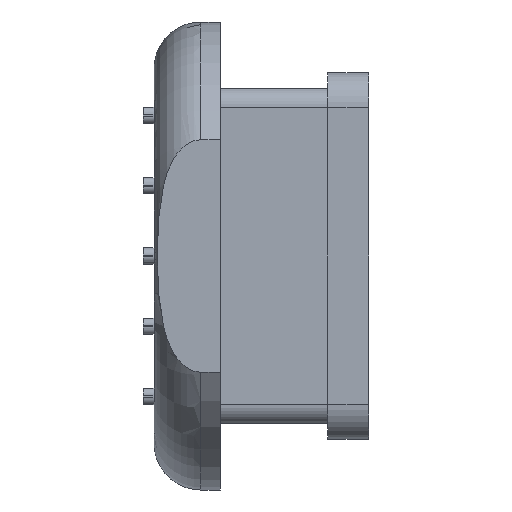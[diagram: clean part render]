
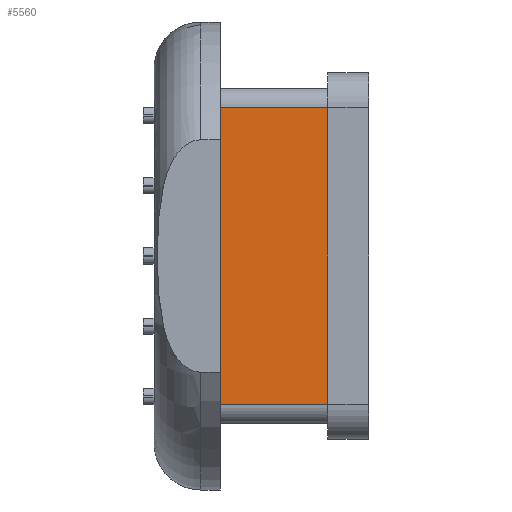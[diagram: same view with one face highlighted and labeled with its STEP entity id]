
A CAD part, front view. The second image highlights one B-rep face of the part: STEP entity #5560.
In plain terms, the highlighted planar face has unit normal (0, -1, 0).
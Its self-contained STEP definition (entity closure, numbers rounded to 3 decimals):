
#4220 = PLANE('',#4221);
#4221 = AXIS2_PLACEMENT_3D('',#4222,#4223,#4224);
#4222 = CARTESIAN_POINT('',(-39.3,12.,-14.75));
#4223 = DIRECTION('',(-1.,0.,0.));
#4224 = DIRECTION('',(0.,0.,1.));
#4793 = VERTEX_POINT('',#4794);
#4794 = CARTESIAN_POINT('',(-39.3,-8.6,-10.95));
#4809 = CYLINDRICAL_SURFACE('',#4810,0.5);
#4810 = AXIS2_PLACEMENT_3D('',#4811,#4812,#4813);
#4811 = CARTESIAN_POINT('',(-36.5,-8.1,-10.95));
#4812 = DIRECTION('',(-1.,0.,0.));
#4813 = DIRECTION('',(0.,-1.,-0.));
#4821 = EDGE_CURVE('',#4822,#4793,#4824,.T.);
#4822 = VERTEX_POINT('',#4823);
#4823 = CARTESIAN_POINT('',(-39.3,-8.6,-18.55));
#4824 = SURFACE_CURVE('',#4825,(#4829,#4836),.PCURVE_S1.);
#4825 = LINE('',#4826,#4827);
#4826 = CARTESIAN_POINT('',(-39.3,-8.6,-16.65));
#4827 = VECTOR('',#4828,1.);
#4828 = DIRECTION('',(0.,0.,1.));
#4829 = PCURVE('',#4220,#4830);
#4830 = DEFINITIONAL_REPRESENTATION('',(#4831),#4835);
#4831 = LINE('',#4832,#4833);
#4832 = CARTESIAN_POINT('',(-1.9,-20.6));
#4833 = VECTOR('',#4834,1.);
#4834 = DIRECTION('',(1.,0.));
#4835 = ( GEOMETRIC_REPRESENTATION_CONTEXT(2) 
PARAMETRIC_REPRESENTATION_CONTEXT() REPRESENTATION_CONTEXT('2D SPACE',''
  ) );
#4836 = PCURVE('',#4837,#4842);
#4837 = PLANE('',#4838);
#4838 = AXIS2_PLACEMENT_3D('',#4839,#4840,#4841);
#4839 = CARTESIAN_POINT('',(-36.5,-8.6,-18.55));
#4840 = DIRECTION('',(0.,-1.,-0.));
#4841 = DIRECTION('',(0.,0.,1.));
#4842 = DEFINITIONAL_REPRESENTATION('',(#4843),#4847);
#4843 = LINE('',#4844,#4845);
#4844 = CARTESIAN_POINT('',(1.9,2.8));
#4845 = VECTOR('',#4846,1.);
#4846 = DIRECTION('',(1.,0.));
#4847 = ( GEOMETRIC_REPRESENTATION_CONTEXT(2) 
PARAMETRIC_REPRESENTATION_CONTEXT() REPRESENTATION_CONTEXT('2D SPACE',''
  ) );
#4864 = CYLINDRICAL_SURFACE('',#4865,0.5);
#4865 = AXIS2_PLACEMENT_3D('',#4866,#4867,#4868);
#4866 = CARTESIAN_POINT('',(-36.5,-8.1,-18.55));
#4867 = DIRECTION('',(-1.,0.,0.));
#4868 = DIRECTION('',(0.,0.,-1.));
#5357 = PLANE('',#5358);
#5358 = AXIS2_PLACEMENT_3D('',#5359,#5360,#5361);
#5359 = CARTESIAN_POINT('',(-36.55,-8.,-14.75));
#5360 = DIRECTION('',(-1.,0.,0.));
#5361 = DIRECTION('',(0.,0.,1.));
#5466 = VERTEX_POINT('',#5467);
#5467 = CARTESIAN_POINT('',(-36.55,-8.6,-18.55));
#5489 = EDGE_CURVE('',#5466,#4822,#5490,.T.);
#5490 = SURFACE_CURVE('',#5491,(#5495,#5502),.PCURVE_S1.);
#5491 = LINE('',#5492,#5493);
#5492 = CARTESIAN_POINT('',(-36.5,-8.6,-18.55));
#5493 = VECTOR('',#5494,1.);
#5494 = DIRECTION('',(-1.,0.,0.));
#5495 = PCURVE('',#4864,#5496);
#5496 = DEFINITIONAL_REPRESENTATION('',(#5497),#5501);
#5497 = LINE('',#5498,#5499);
#5498 = CARTESIAN_POINT('',(1.571,0.));
#5499 = VECTOR('',#5500,1.);
#5500 = DIRECTION('',(0.,1.));
#5501 = ( GEOMETRIC_REPRESENTATION_CONTEXT(2) 
PARAMETRIC_REPRESENTATION_CONTEXT() REPRESENTATION_CONTEXT('2D SPACE',''
  ) );
#5502 = PCURVE('',#4837,#5503);
#5503 = DEFINITIONAL_REPRESENTATION('',(#5504),#5508);
#5504 = LINE('',#5505,#5506);
#5505 = CARTESIAN_POINT('',(0.,0.));
#5506 = VECTOR('',#5507,1.);
#5507 = DIRECTION('',(0.,1.));
#5508 = ( GEOMETRIC_REPRESENTATION_CONTEXT(2) 
PARAMETRIC_REPRESENTATION_CONTEXT() REPRESENTATION_CONTEXT('2D SPACE',''
  ) );
#5560 = ADVANCED_FACE('',(#5561),#4837,.T.);
#5561 = FACE_BOUND('',#5562,.T.);
#5562 = EDGE_LOOP('',(#5563,#5586,#5607,#5608));
#5563 = ORIENTED_EDGE('',*,*,#5564,.T.);
#5564 = EDGE_CURVE('',#5466,#5565,#5567,.T.);
#5565 = VERTEX_POINT('',#5566);
#5566 = CARTESIAN_POINT('',(-36.55,-8.6,-10.95));
#5567 = SURFACE_CURVE('',#5568,(#5572,#5579),.PCURVE_S1.);
#5568 = LINE('',#5569,#5570);
#5569 = CARTESIAN_POINT('',(-36.55,-8.6,-16.65));
#5570 = VECTOR('',#5571,1.);
#5571 = DIRECTION('',(0.,0.,1.));
#5572 = PCURVE('',#4837,#5573);
#5573 = DEFINITIONAL_REPRESENTATION('',(#5574),#5578);
#5574 = LINE('',#5575,#5576);
#5575 = CARTESIAN_POINT('',(1.9,0.05));
#5576 = VECTOR('',#5577,1.);
#5577 = DIRECTION('',(1.,0.));
#5578 = ( GEOMETRIC_REPRESENTATION_CONTEXT(2) 
PARAMETRIC_REPRESENTATION_CONTEXT() REPRESENTATION_CONTEXT('2D SPACE',''
  ) );
#5579 = PCURVE('',#5357,#5580);
#5580 = DEFINITIONAL_REPRESENTATION('',(#5581),#5585);
#5581 = LINE('',#5582,#5583);
#5582 = CARTESIAN_POINT('',(-1.9,-0.6));
#5583 = VECTOR('',#5584,1.);
#5584 = DIRECTION('',(1.,0.));
#5585 = ( GEOMETRIC_REPRESENTATION_CONTEXT(2) 
PARAMETRIC_REPRESENTATION_CONTEXT() REPRESENTATION_CONTEXT('2D SPACE',''
  ) );
#5586 = ORIENTED_EDGE('',*,*,#5587,.T.);
#5587 = EDGE_CURVE('',#5565,#4793,#5588,.T.);
#5588 = SURFACE_CURVE('',#5589,(#5593,#5600),.PCURVE_S1.);
#5589 = LINE('',#5590,#5591);
#5590 = CARTESIAN_POINT('',(-36.5,-8.6,-10.95));
#5591 = VECTOR('',#5592,1.);
#5592 = DIRECTION('',(-1.,0.,0.));
#5593 = PCURVE('',#4837,#5594);
#5594 = DEFINITIONAL_REPRESENTATION('',(#5595),#5599);
#5595 = LINE('',#5596,#5597);
#5596 = CARTESIAN_POINT('',(7.6,0.));
#5597 = VECTOR('',#5598,1.);
#5598 = DIRECTION('',(0.,1.));
#5599 = ( GEOMETRIC_REPRESENTATION_CONTEXT(2) 
PARAMETRIC_REPRESENTATION_CONTEXT() REPRESENTATION_CONTEXT('2D SPACE',''
  ) );
#5600 = PCURVE('',#4809,#5601);
#5601 = DEFINITIONAL_REPRESENTATION('',(#5602),#5606);
#5602 = LINE('',#5603,#5604);
#5603 = CARTESIAN_POINT('',(0.,0.));
#5604 = VECTOR('',#5605,1.);
#5605 = DIRECTION('',(0.,1.));
#5606 = ( GEOMETRIC_REPRESENTATION_CONTEXT(2) 
PARAMETRIC_REPRESENTATION_CONTEXT() REPRESENTATION_CONTEXT('2D SPACE',''
  ) );
#5607 = ORIENTED_EDGE('',*,*,#4821,.F.);
#5608 = ORIENTED_EDGE('',*,*,#5489,.F.);
